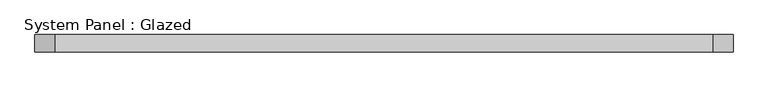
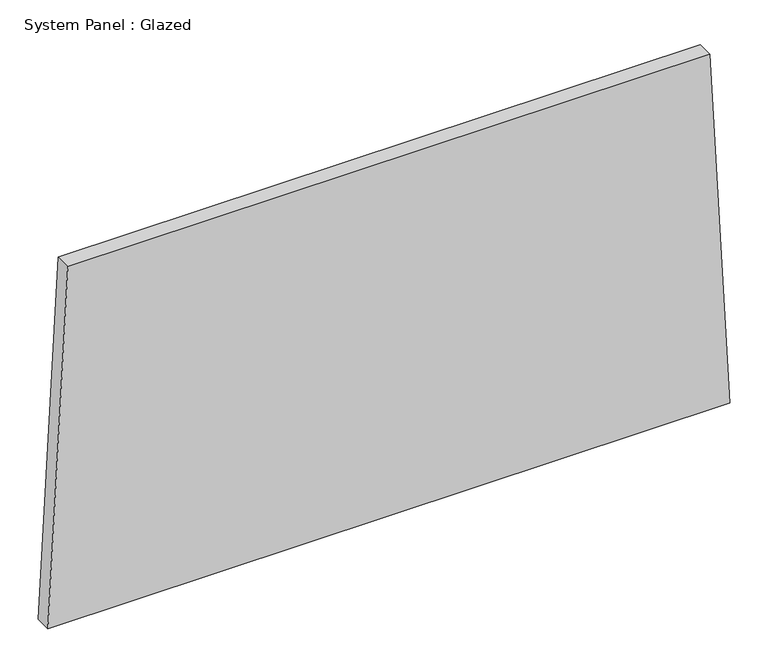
"""IFC4 building model written with IfcOpenShell, lengths in millimetres: plate geometry, System Panel : Glazed."""

from ifc_helpers import new_model, si_unit, frame, origin, place, context, project, spatial, polyline, outline, extrude, source, transform, mapped, element, save


def system_panel_glazed_65729b9c(model_context):
    return source(origin(), model_context, "Body", "SweptSolid", [
        extrude(outline(polyline([(0.0, -517.518032), (0.0, 517.518032), (570.6406327, 487.1858142), (570.6406327, -487.1858142), (0.0, -517.518032)])), frame((0.0, -44.45, 0.0), z_axis=(0.0, 1.0, 0.0), x_axis=(0.0, 0.0, 1.0)), (0.0, 0.0, 1.0), 25.4),
    ])


if __name__ == "__main__":
    model = new_model("IFC4")
    model_context = context("Model", 3, world=origin())
    ifc_project = project(units=[si_unit("LENGTHUNIT", "METRE", prefix="MILLI")], contexts=[model_context])
    site = spatial("IfcSite", under=ifc_project)
    building = spatial("IfcBuilding", under=site)
    placement = place(None, origin())
    system_panel_glazed_shape = system_panel_glazed_65729b9c(model_context)
    element("IfcPlate", 1, ObjectType="System Panel : Glazed", at=placement, inside=building, context=model_context, shape_type="MappedRepresentation", body=[
        mapped(system_panel_glazed_shape, transform((0.0, 0.0, 0.0), x_axis=(1.0, 0.0, 0.0), y_axis=(0.0, 1.0, 0.0), z_axis=(0.0, 0.0, 1.0))),
    ])
    save(model, "model.ifc")
